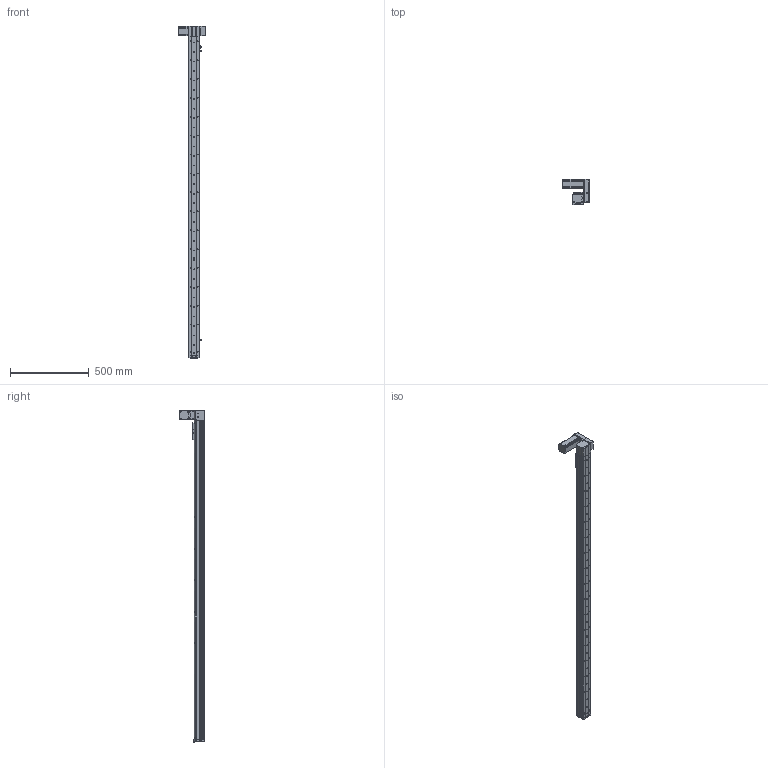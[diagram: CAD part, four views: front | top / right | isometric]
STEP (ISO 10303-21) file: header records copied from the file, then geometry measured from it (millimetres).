
FILE_DESCRIPTION (( 'STEP AP214' ), '1' );
FILE_NAME ('KSD68BS-S1850-MLU-CR.STEP', '2019-11-07T08:37:57', ( '微软用户' ), ( '微软中国' ), 'SwSTEP 2.0', 'SolidWorks 2014', '' );
FILE_SCHEMA (( 'AUTOMOTIVE_DESIGN' ));
Length unit declared in the file: millimetre
Products named in the file (14): 68宽单导轨全封闭同步带端板; 68单导轨全封闭同步带电机座左; 68单导轨全封闭同步带安装板; KSD68BS 1850行程盖板全封闭; 悵誘欶奻狟殏; 68宽马达安装板连板上折同步带; 感应片68宽全封闭; U倰嫖萇EEㄜSX672; 台达ECMA－C20604AS伺服电机（400W); KSD68BS 1850行程底板全封闭; KSD68BS-S1850-MLU-CR; 68宽单导轨全封闭丝杆传动安装板1防护罩; 68遵裔啣揤啣1; KSD68BS 1850行程侧板全封闭
Assembly tree (16 placements, depth 2):
  KSD68BS-S1850-MLU-CR
    KSD68BS 1850行程底板全封闭
    台达ECMA－C20604AS伺服电机（400W)
    U倰嫖萇EEㄜSX672  x3
    感应片68宽全封闭
    68宽马达安装板连板上折同步带
    悵誘欶奻狟殏
    68单导轨全封闭同步带安装板
    68单导轨全封闭同步带电机座左
    68宽单导轨全封闭同步带端板
    KSD68BS 1850行程侧板全封闭  x2
    68宽单导轨全封闭丝杆传动安装板1防护罩
    KSD68BS 1850行程盖板全封闭
    68遵裔啣揤啣1
Bounding box: 167.2 x 159.5 x 2108.1 mm (x, y, z)
Volume: 3679969.7 mm3; surface area: 1510230.9 mm2
Topology: 17 solids, 17 shells, 1620 faces, 4692 edges, 2988 vertices
Faces by surface type: cylinder 806, plane 622, cone 192
Entity records: 53887 total; most frequent: CARTESIAN_POINT 9434, DIRECTION 8000, ORIENTED_EDGE 7658, EDGE_CURVE 3829, AXIS2_PLACEMENT_3D 2926, VERTEX_POINT 2510, LINE 2148, VECTOR 2148
